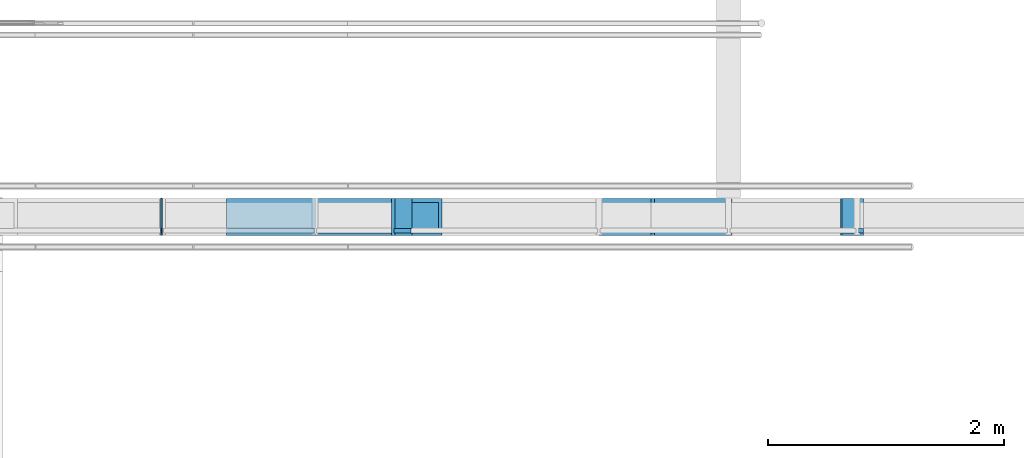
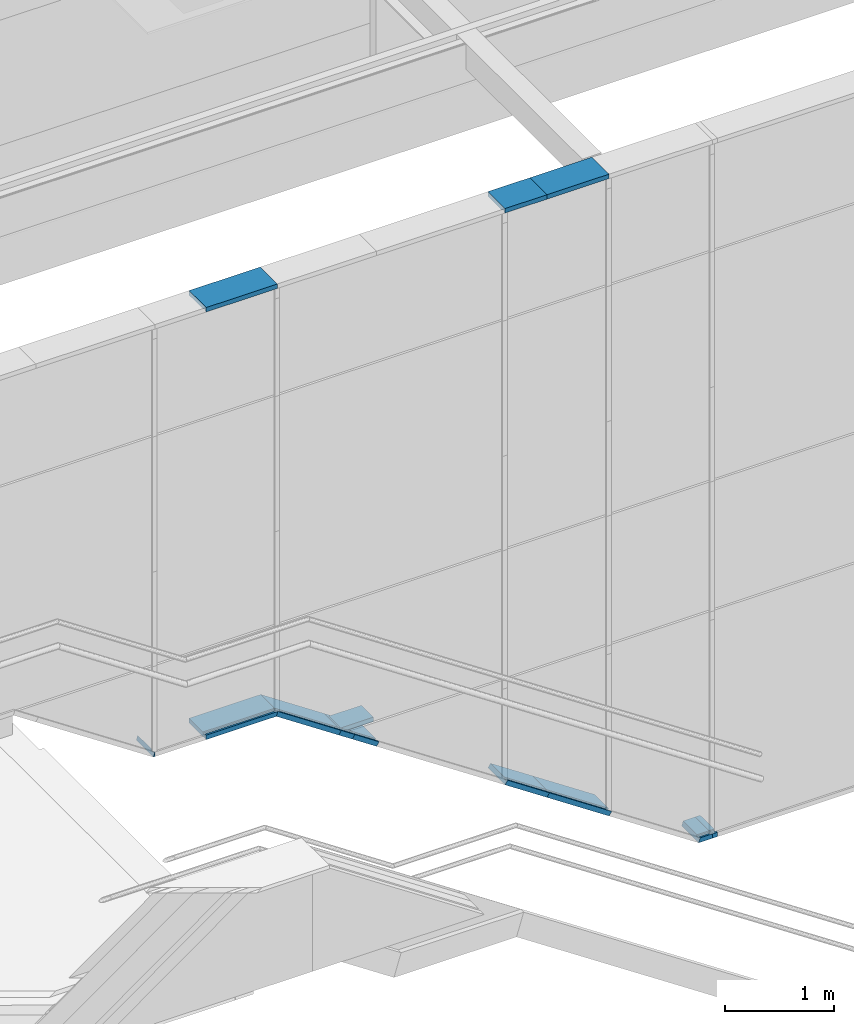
# One storey, part 30 of 137: 13 members, 1 element without a shape of its own.
"""IFC2X3 building model written with IfcOpenShell, lengths in millimetres."""

from ifc_helpers import new_model, entity, si_unit, converted_unit, derived_unit, money_unit, direction, frame, origin_with_axes, place, context, subcontext, project, spatial, faceted_brep, material, type_object, element, aggregate, save


model = new_model("IFC2X3")

# Units and contexts
model_context = context("Model", 3, precision=0.01, world=origin_with_axes(), true_north=direction((0.0, 1.0)))
body_context = subcontext(model_context, "Body", "Model", "MODEL_VIEW")
ifc_project = project(units=[si_unit("LENGTHUNIT", "METRE", prefix="MILLI"), si_unit("AREAUNIT", "SQUARE_METRE"), si_unit("VOLUMEUNIT", "CUBIC_METRE"), converted_unit("PLANEANGLEUNIT", "DEGREE", entity("IfcPlaneAngleMeasure", 0.0174532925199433), si_unit("PLANEANGLEUNIT", "RADIAN"), dimensions=[0, 0, 0, 0, 0, 0, 0]), money_unit("EUR"), converted_unit("TIMEUNIT", "Year", entity("IfcTimeMeasure", 31556926.0), si_unit("TIMEUNIT", "SECOND"), dimensions=[0, 0, 1, 0, 0, 0, 0]), si_unit("MASSUNIT", "GRAM", prefix="KILO"), si_unit("THERMODYNAMICTEMPERATUREUNIT", "DEGREE_CELSIUS"), si_unit("LUMINOUSINTENSITYUNIT", "LUMEN"), si_unit("ENERGYUNIT", "JOULE", prefix="MEGA"), derived_unit("THERMALCONDUCTANCEUNIT", [(si_unit("POWERUNIT", "WATT"), 1), (si_unit("LENGTHUNIT", "METRE"), -1), (si_unit("THERMODYNAMICTEMPERATUREUNIT", "KELVIN"), -1)]), derived_unit("SPECIFICHEATCAPACITYUNIT", [(si_unit("ENERGYUNIT", "JOULE"), 1), (si_unit("MASSUNIT", "GRAM", prefix="KILO"), -1), (si_unit("THERMODYNAMICTEMPERATUREUNIT", "KELVIN"), -1)]), derived_unit("MASSDENSITYUNIT", [(si_unit("MASSUNIT", "GRAM", prefix="KILO"), 1), (si_unit("VOLUMEUNIT", "CUBIC_METRE"), -1)])], contexts=[model_context])

# Site, building, storey
site_placement = place(None, origin_with_axes())
site = spatial("IfcSite", under=ifc_project, at=site_placement, Name="Site", CompositionType="ELEMENT")
building_placement = place(site_placement, origin_with_axes())
building = spatial("IfcBuilding", under=site, at=building_placement, Name="Naam gebouw", CompositionType="ELEMENT")
storey_placement = place(building_placement, frame((0.0, 0.0, 3960.0), z_axis=(0.0, 0.0, 1.0), x_axis=(1.0, 0.0, 0.0)))
storey = spatial("IfcBuildingStorey", under=building, at=storey_placement, Name="1e verdieping", CompositionType="ELEMENT", Elevation=3960.0)

# Curtain wall, members
curtain_wall_type = type_object("IfcCurtainWallType", Name="Curtain Wall Type", PredefinedType="NOTDEFINED")
curtain_wall_placement = place(storey_placement, frame((8473.014787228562, 4364.43626274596, -3949.999921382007), z_axis=(0.0, 0.0, 1.0), x_axis=(1.0, 0.0, 0.0)))
curtain_wall = element("IfcCurtainWall", 1, at=curtain_wall_placement, inside=storey, type_object=curtain_wall_type, Name="21_Vliesgevel-x")
ifc_material = material(Name="Metaal - Staal AFW")
member_type_1 = type_object("IfcMemberType", Name="Boundary Frame 50 x 313", PredefinedType="MULLION")
member_1_placement = place(curtain_wall_placement, frame((6371.410699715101, -161.4362627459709, 2535.000005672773), z_axis=(0.8320502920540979, 0.0, -0.5547001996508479), x_axis=(0.5547001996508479, 0.0, 0.8320502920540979)))
member_1 = element("IfcMember", 2, at=member_1_placement, type_object=member_type_1, material=ifc_material, Name="h METAAL_Kader-x", ObjectType="MULLION", context=body_context, shape_type="Brep", body=[
    faceted_brep([(34.99999999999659, -17.4000000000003, 0.0), (34.99999999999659, 20.99999999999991, 0.0), (34.99999999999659, 20.99999999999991, 171.2641203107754), (34.99999999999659, -17.4000000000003, 171.2641203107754), (14.99999999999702, -17.4000000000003, 0.0), (14.99999999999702, 20.99999999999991, 0.0), (14.99999999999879, 20.99999999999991, 171.2641203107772), (14.99999999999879, -17.4000000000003, 171.2641203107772)], [[[0, 1, 2, 3]], [[0, 4, 5, 1]], [[1, 5, 6, 2]], [[3, 2, 6, 7]], [[4, 0, 3, 7]], [[5, 4, 7, 6]]]),
    faceted_brep([(14.99999999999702, -20.99999999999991, 0.0), (14.99999999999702, 20.99999999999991, 0.0), (14.99999999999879, 20.99999999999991, 171.2641203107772), (14.99999999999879, -20.99999999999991, 171.2641203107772), (0.0, -20.99999999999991, 0.0), (0.0, 20.99999999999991, 0.0), (0.0, 20.99999999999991, 171.2641203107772), (0.0, -20.99999999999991, 171.2641203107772)], [[[0, 1, 2, 3]], [[0, 4, 5, 1]], [[1, 5, 6, 2]], [[3, 2, 6, 7]], [[4, 0, 3, 7]], [[5, 4, 7, 6]]]),
    faceted_brep([(49.99999999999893, -272.0000000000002, 0.0), (49.99999999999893, -17.4000000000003, 0.0), (49.99999999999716, -17.4000000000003, 171.2641203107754), (49.99999999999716, -272.0000000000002, 171.2641203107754), (0.0, -272.0000000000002, 0.0), (0.0, -17.4000000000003, 0.0), (0.0, -17.4000000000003, 171.2641203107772), (0.0, -272.0000000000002, 171.2641203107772)], [[[0, 1, 2, 3]], [[0, 4, 5, 1]], [[1, 5, 6, 2]], [[3, 2, 6, 7]], [[4, 0, 3, 7]], [[5, 4, 7, 6]]]),
    faceted_brep([(0.0, 41.00000000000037, 0.0), (0.0, 20.99999999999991, 0.0), (0.0, 20.99999999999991, 171.2641203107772), (0.0, 41.00000000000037, 171.2641203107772), (49.99999999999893, 41.00000000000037, 0.0), (49.99999999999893, 20.99999999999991, 0.0), (49.99999999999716, 20.99999999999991, 171.2641203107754), (49.99999999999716, 41.00000000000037, 171.2641203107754)], [[[0, 1, 2, 3]], [[0, 4, 5, 1]], [[1, 5, 6, 2]], [[3, 2, 6, 7]], [[4, 0, 3, 7]], [[5, 4, 7, 6]]]),
])
member_2_placement = place(curtain_wall_placement, frame((4969.941645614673, -161.43626274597, 2974.712843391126), z_axis=(1.0, 0.0, 0.0), x_axis=(0.0, 0.0, 1.0)))
member_2 = element("IfcMember", 3, at=member_2_placement, type_object=member_type_1, material=ifc_material, Name="h METAAL_Kader-x", ObjectType="MULLION", context=body_context, shape_type="Brep", body=[
    faceted_brep([(35.00000000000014, -17.4000000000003, 0.0), (35.00000000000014, 20.99999999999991, 0.0), (35.00000000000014, 20.99999999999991, 752.4969508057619), (35.00000000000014, -17.4000000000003, 752.4969508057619), (15.00000000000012, -17.4000000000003, 0.0), (15.00000000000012, 20.99999999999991, 0.0), (15.00000000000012, 20.99999999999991, 746.4414380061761), (15.00000000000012, -17.4000000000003, 746.4414380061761)], [[[0, 1, 2, 3]], [[0, 4, 5, 1]], [[1, 5, 6, 2]], [[3, 2, 6, 7]], [[4, 0, 3, 7]], [[5, 4, 7, 6]]]),
    faceted_brep([(15.00000000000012, -20.99999999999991, 0.0), (15.00000000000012, 20.99999999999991, 0.0), (15.00000000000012, 20.99999999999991, 746.4414380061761), (15.00000000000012, -20.99999999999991, 746.4414380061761), (0.0, -20.99999999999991, 0.0), (0.0, 20.99999999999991, 0.0), (0.0, 20.99999999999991, 741.8998034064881), (0.0, -20.99999999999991, 741.8998034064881)], [[[0, 1, 2, 3]], [[0, 4, 5, 1]], [[1, 5, 6, 2]], [[3, 2, 6, 7]], [[4, 0, 3, 7]], [[5, 4, 7, 6]]]),
    faceted_brep([(0.0, -17.4000000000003, 0.0), (0.0, -272.0000000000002, 0.0), (0.0, -272.0000000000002, 741.8998034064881), (0.0, -17.4000000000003, 741.8998034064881), (49.99999999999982, -17.4000000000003, 0.0), (49.99999999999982, -272.0000000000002, 0.0), (49.99999999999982, -272.0000000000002, 757.03858540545), (49.99999999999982, -17.4000000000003, 757.03858540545)], [[[0, 1, 2, 3]], [[1, 0, 4, 5]], [[2, 1, 5, 6]], [[7, 3, 2, 6]], [[0, 3, 7, 4]], [[5, 4, 7, 6]]]),
    faceted_brep([(0.0, 41.00000000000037, 0.0), (0.0, 20.99999999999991, 0.0), (0.0, 20.99999999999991, 741.8998034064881), (0.0, 41.00000000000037, 741.8998034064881), (49.99999999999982, 41.00000000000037, 0.0), (49.99999999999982, 20.99999999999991, 0.0), (49.99999999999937, 20.99999999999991, 757.03858540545), (49.99999999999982, 41.00000000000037, 757.03858540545)], [[[0, 1, 2, 3]], [[1, 0, 4, 5]], [[2, 1, 5, 6]], [[3, 2, 6, 7]], [[0, 3, 7, 4]], [[5, 4, 7, 6]]]),
])
member_3_placement = place(curtain_wall_placement, frame((10316.98035005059, -161.4362627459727, 3.861439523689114e-05), z_axis=(1.0, 0.0, 0.0), x_axis=(0.0, 0.0, 1.0)))
member_3 = element("IfcMember", 4, at=member_3_placement, type_object=member_type_1, material=ifc_material, Name="h METAAL_Kader-x", ObjectType="MULLION", context=body_context, shape_type="Brep", body=[
    faceted_brep([(35.0, -17.4000000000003, 0.0), (35.0, 20.99999999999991, 0.0), (35.0, 20.99999999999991, 52.96129556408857), (35.0, -17.4000000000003, 52.96129556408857), (15.0, -17.4000000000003, 0.0), (15.0, 20.99999999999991, 0.0), (15.0, 20.99999999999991, 52.96129556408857), (15.0, -17.4000000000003, 52.96129556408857)], [[[0, 1, 2, 3]], [[0, 4, 5, 1]], [[1, 5, 6, 2]], [[3, 2, 6, 7]], [[4, 0, 3, 7]], [[5, 4, 7, 6]]]),
    faceted_brep([(15.0, -20.99999999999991, 0.0), (15.0, 20.99999999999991, 0.0), (15.0, 20.99999999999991, 52.96129556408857), (15.0, -20.99999999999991, 52.96129556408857), (0.0, -20.99999999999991, 0.0), (0.0, 20.99999999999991, 0.0), (0.0, 20.99999999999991, 52.96129556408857), (0.0, -20.99999999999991, 52.96129556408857)], [[[0, 1, 2, 3]], [[0, 4, 5, 1]], [[1, 5, 6, 2]], [[3, 2, 6, 7]], [[4, 0, 3, 7]], [[5, 4, 7, 6]]]),
    faceted_brep([(49.99999999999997, -272.0000000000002, 0.0), (50.0, -17.4000000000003, 0.0), (50.0, -17.4000000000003, 52.96129556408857), (49.99999999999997, -272.0000000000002, 52.96129556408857), (0.0, -272.0000000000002, 0.0), (0.0, -17.4000000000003, 0.0), (0.0, -17.4000000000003, 52.96129556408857), (0.0, -272.0000000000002, 52.96129556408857)], [[[0, 1, 2, 3]], [[0, 4, 5, 1]], [[1, 5, 6, 2]], [[3, 2, 6, 7]], [[4, 0, 3, 7]], [[5, 4, 7, 6]]]),
    faceted_brep([(0.0, 41.00000000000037, 0.0), (0.0, 20.99999999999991, 0.0), (0.0, 20.99999999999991, 52.96129556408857), (0.0, 41.00000000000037, 52.96129556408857), (50.00000000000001, 41.00000000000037, 0.0), (50.0, 20.99999999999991, 0.0), (50.0, 20.99999999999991, 52.96129556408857), (50.00000000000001, 41.00000000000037, 52.96129556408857)], [[[0, 1, 2, 3]], [[0, 4, 5, 1]], [[1, 5, 6, 2]], [[3, 2, 6, 7]], [[4, 0, 3, 7]], [[5, 4, 7, 6]]]),
])
member_4_placement = place(curtain_wall_placement, frame((8126.979732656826, -161.4362627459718, 1364.620556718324), z_axis=(0.8320502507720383, 0.0, -0.5547002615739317), x_axis=(0.5547002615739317, 0.0, 0.8320502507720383)))
member_4 = element("IfcMember", 5, at=member_4_placement, type_object=member_type_1, material=ifc_material, Name="h METAAL_Kader-x", ObjectType="MULLION", context=body_context, shape_type="Brep", body=[
    faceted_brep([(35.00000000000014, -17.4000000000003, 0.0), (35.00000000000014, 20.99999999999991, 0.0), (34.99999999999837, 20.99999999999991, 532.3739939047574), (34.99999999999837, -17.4000000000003, 532.3739939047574), (15.00000000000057, -17.4000000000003, 0.0), (15.00000000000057, 20.99999999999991, 0.0), (15.00000000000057, 20.99999999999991, 532.3739939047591), (15.00000000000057, -17.4000000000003, 532.3739939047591)], [[[0, 1, 2, 3]], [[0, 4, 5, 1]], [[1, 5, 6, 2]], [[3, 2, 6, 7]], [[4, 0, 3, 7]], [[5, 4, 7, 6]]]),
    faceted_brep([(15.00000000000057, -20.99999999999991, 0.0), (15.00000000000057, 20.99999999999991, 0.0), (15.00000000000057, 20.99999999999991, 532.3739939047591), (15.00000000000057, -20.99999999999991, 532.3739939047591), (0.0, -20.99999999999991, 0.0), (0.0, 20.99999999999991, 0.0), (0.0, 20.99999999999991, 532.3739939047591), (0.0, -20.99999999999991, 532.3739939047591)], [[[0, 1, 2, 3]], [[0, 4, 5, 1]], [[1, 5, 6, 2]], [[3, 2, 6, 7]], [[4, 0, 3, 7]], [[5, 4, 7, 6]]]),
    faceted_brep([(50.00000000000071, -272.0000000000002, 0.0), (50.00000000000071, -17.4000000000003, 0.0), (49.99999999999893, -17.4000000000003, 532.3739939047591), (49.99999999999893, -272.0000000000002, 532.3739939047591), (0.0, -272.0000000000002, 0.0), (0.0, -17.4000000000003, 0.0), (0.0, -17.4000000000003, 532.3739939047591), (0.0, -272.0000000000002, 532.3739939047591)], [[[0, 1, 2, 3]], [[0, 4, 5, 1]], [[1, 5, 6, 2]], [[3, 2, 6, 7]], [[4, 0, 3, 7]], [[5, 4, 7, 6]]]),
    faceted_brep([(0.0, 41.00000000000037, 0.0), (0.0, 20.99999999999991, 0.0), (0.0, 20.99999999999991, 532.3739939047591), (0.0, 41.00000000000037, 532.3739939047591), (50.00000000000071, 41.00000000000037, 0.0), (50.00000000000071, 20.99999999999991, 0.0), (49.99999999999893, 20.99999999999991, 532.3739939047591), (49.99999999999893, 41.00000000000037, 532.3739939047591)], [[[0, 1, 2, 3]], [[0, 4, 5, 1]], [[1, 5, 6, 2]], [[3, 2, 6, 7]], [[4, 0, 3, 7]], [[5, 4, 7, 6]]]),
])
member_5_placement = place(curtain_wall_placement, frame((6513.911057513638, -161.4362627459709, 2439.99976629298), z_axis=(0.8320503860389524, 0.0, -0.5547000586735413), x_axis=(0.5547000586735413, 0.0, 0.8320503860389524)))
member_5 = element("IfcMember", 6, at=member_5_placement, type_object=member_type_1, material=ifc_material, Name="h METAAL_Kader-x", ObjectType="MULLION", context=body_context, shape_type="Brep", body=[
    faceted_brep([(35.00000000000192, -17.4000000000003, -4.235840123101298e-06), (35.00000000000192, 20.99999999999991, -4.235840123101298e-06), (35.00000000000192, 20.99999999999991, 307.7104433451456), (35.00000000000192, -17.4000000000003, 307.7104433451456), (15.00000000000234, -17.4000000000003, -4.235838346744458e-06), (15.00000000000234, 20.99999999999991, -4.235838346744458e-06), (15.00000000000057, 20.99999999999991, 307.7104433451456), (15.00000000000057, -17.4000000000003, 307.7104433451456)], [[[0, 1, 2, 3]], [[0, 4, 5, 1]], [[1, 5, 6, 2]], [[3, 2, 6, 7]], [[4, 0, 3, 7]], [[5, 4, 7, 6]]]),
    faceted_brep([(15.00000000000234, -20.99999999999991, -4.235838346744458e-06), (15.00000000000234, 20.99999999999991, -4.235838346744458e-06), (15.00000000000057, 20.99999999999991, 307.7104433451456), (15.00000000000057, -20.99999999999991, 307.7104433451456), (0.0, -20.99999999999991, -4.235838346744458e-06), (0.0, 20.99999999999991, -4.235838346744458e-06), (0.0, 20.99999999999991, 307.7104433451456), (0.0, -20.99999999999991, 307.7104433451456)], [[[0, 1, 2, 3]], [[0, 4, 5, 1]], [[1, 5, 6, 2]], [[3, 2, 6, 7]], [[4, 0, 3, 7]], [[5, 4, 7, 6]]]),
    faceted_brep([(50.00000000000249, -272.0000000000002, -4.235840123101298e-06), (50.00000000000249, -17.4000000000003, -4.235840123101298e-06), (50.00000000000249, -17.4000000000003, 307.7104433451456), (50.00000000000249, -272.0000000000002, 307.7104433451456), (0.0, -272.0000000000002, -4.235838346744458e-06), (0.0, -17.4000000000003, -4.235838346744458e-06), (0.0, -17.4000000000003, 307.7104433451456), (0.0, -272.0000000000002, 307.7104433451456)], [[[0, 1, 2, 3]], [[0, 4, 5, 1]], [[1, 5, 6, 2]], [[3, 2, 6, 7]], [[4, 0, 3, 7]], [[5, 4, 7, 6]]]),
    faceted_brep([(0.0, 41.00000000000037, -4.235838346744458e-06), (0.0, 20.99999999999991, -4.235838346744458e-06), (0.0, 20.99999999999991, 307.7104433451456), (0.0, 41.00000000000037, 307.7104433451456), (50.00000000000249, 41.00000000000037, -4.235840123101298e-06), (50.00000000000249, 20.99999999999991, -4.235840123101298e-06), (50.00000000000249, 20.99999999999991, 307.7104433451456), (50.00000000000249, 41.00000000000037, 307.7104433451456)], [[[0, 1, 2, 3]], [[0, 4, 5, 1]], [[1, 5, 6, 2]], [[3, 2, 6, 7]], [[4, 0, 3, 7]], [[5, 4, 7, 6]]]),
])
member_6_placement = place(curtain_wall_placement, frame((5711.841449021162, -161.43626274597, 2974.712843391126), z_axis=(0.8320502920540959, 0.0, -0.5547001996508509), x_axis=(0.5547001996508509, 0.0, 0.8320502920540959)))
member_6 = element("IfcMember", 7, at=member_6_placement, type_object=member_type_1, material=ifc_material, Name="h METAAL_Kader-x", ObjectType="MULLION", context=body_context, shape_type="Brep", body=[
    faceted_brep([(35.00000000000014, 20.99999999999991, -10.59714739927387), (35.00000000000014, 20.99999999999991, 792.7035865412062), (35.00000000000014, -17.4000000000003, 792.7035865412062), (35.00000000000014, -17.4000000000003, -10.59714739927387), (15.00000000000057, 20.99999999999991, -4.541634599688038), (15.00000000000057, 20.99999999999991, 792.7035865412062), (15.00000000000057, -17.4000000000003, 792.7035865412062), (15.00000000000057, -17.4000000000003, -4.541634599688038)], [[[0, 1, 2, 3]], [[4, 5, 1, 0]], [[2, 1, 5, 6]], [[3, 2, 6, 7]], [[3, 7, 4, 0]], [[7, 6, 5, 4]]]),
    faceted_brep([(15.00000000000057, 20.99999999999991, -4.541634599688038), (15.00000000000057, 20.99999999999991, 792.7035865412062), (15.00000000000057, -20.99999999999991, 792.7035865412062), (15.00000000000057, -20.99999999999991, -4.541634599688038), (0.0, 20.99999999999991, 0.0), (0.0, 20.99999999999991, 792.7035865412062), (0.0, -20.99999999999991, 792.7035865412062), (0.0, -20.99999999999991, 0.0)], [[[0, 1, 2, 3]], [[4, 5, 1, 0]], [[2, 1, 5, 6]], [[3, 2, 6, 7]], [[3, 7, 4, 0]], [[7, 6, 5, 4]]]),
    faceted_brep([(0.0, -272.0000000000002, 792.7035865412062), (0.0, -17.4000000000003, 792.7035865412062), (0.0, -17.4000000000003, 0.0), (0.0, -272.0000000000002, 0.0), (49.99999999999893, -272.0000000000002, 792.7035865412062), (49.99999999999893, -17.4000000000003, 792.7035865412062), (50.00000000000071, -17.4000000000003, -15.13878199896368), (50.00000000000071, -272.0000000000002, -15.1387819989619)], [[[0, 1, 2, 3]], [[1, 0, 4, 5]], [[2, 1, 5, 6]], [[2, 6, 7, 3]], [[0, 3, 7, 4]], [[7, 6, 5, 4]]]),
    faceted_brep([(0.0, 20.99999999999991, 792.7035865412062), (0.0, 20.99999999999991, 0.0), (50.00000000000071, 20.99999999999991, -15.13878199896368), (49.99999999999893, 20.99999999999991, 792.7035865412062), (0.0, 41.00000000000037, 792.7035865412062), (0.0, 41.00000000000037, 0.0), (50.00000000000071, 41.00000000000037, -15.13878199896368), (49.99999999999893, 41.00000000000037, 792.7035865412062)], [[[0, 1, 2, 3]], [[0, 4, 5, 1]], [[1, 5, 6, 2]], [[2, 6, 7, 3]], [[4, 0, 3, 7]], [[5, 4, 7, 6]]]),
])
member_7_placement = place(curtain_wall_placement, frame((4411.841928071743, -161.43626274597, 2974.712843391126), z_axis=(1.0, 0.0, 0.0), x_axis=(0.0, 0.0, 1.0)))
member_7 = element("IfcMember", 8, at=member_7_placement, type_object=member_type_1, material=ifc_material, Name="h METAAL_Kader-x", ObjectType="MULLION", context=body_context, shape_type="Brep", body=[
    faceted_brep([(35.00000000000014, 20.99999999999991, 10.5971438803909), (35.00000000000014, 20.99999999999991, 15.13845554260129), (35.00000000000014, -17.4000000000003, 15.13845554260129), (35.00000000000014, -17.4000000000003, 10.5971438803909), (15.00000000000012, 20.99999999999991, 4.541633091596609), (15.00000000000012, 20.99999999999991, 15.13845554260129), (15.00000000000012, -17.4000000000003, 15.13845554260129), (15.00000000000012, -17.4000000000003, 4.541633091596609)], [[[0, 1, 2, 3]], [[4, 5, 1, 0]], [[2, 1, 5, 6]], [[3, 2, 6, 7]], [[3, 7, 4, 0]], [[7, 6, 5, 4]]]),
    faceted_brep([(15.00000000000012, 20.99999999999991, 4.541633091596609), (15.00000000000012, 20.99999999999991, 15.13845554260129), (15.00000000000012, -20.99999999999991, 15.13845554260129), (15.00000000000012, -20.99999999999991, 4.541633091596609), (0.0, 20.99999999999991, 0.0), (0.0, 20.99999999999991, 15.13845554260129), (0.0, -20.99999999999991, 15.13845554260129), (0.0, -20.99999999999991, 0.0)], [[[0, 1, 2, 3]], [[4, 5, 1, 0]], [[2, 1, 5, 6]], [[3, 2, 6, 7]], [[3, 7, 4, 0]], [[7, 6, 5, 4]]]),
    faceted_brep([(0.0, -272.0000000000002, 0.0), (0.0, -17.4000000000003, 0.0), (49.99999999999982, -17.4000000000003, 15.13845554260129), (49.99999999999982, -272.0000000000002, 15.13845554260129), (0.0, -272.0000000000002, 15.13845554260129), (0.0, -17.4000000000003, 15.13845554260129)], [[[0, 1, 2, 3]], [[4, 5, 1, 0]], [[1, 5, 2]], [[5, 4, 3, 2]], [[3, 4, 0]]]),
    faceted_brep([(0.0, 20.99999999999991, 0.0), (0.0, 41.00000000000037, 0.0), (49.99999999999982, 41.00000000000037, 15.13845554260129), (49.99999999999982, 20.99999999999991, 15.13845554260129), (0.0, 20.99999999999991, 15.13845554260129), (0.0, 41.00000000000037, 15.13845554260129)], [[[0, 1, 2, 3]], [[4, 5, 1, 0]], [[1, 5, 2]], [[5, 4, 3, 2]], [[3, 4, 0]]]),
])
member_8_placement = place(curtain_wall_placement, frame((8569.941645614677, -161.4362627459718, 1069.312564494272), z_axis=(0.8320503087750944, 0.0, -0.5547001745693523), x_axis=(0.5547001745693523, 0.0, 0.8320503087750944)))
member_8 = element("IfcMember", 9, at=member_8_placement, type_object=member_type_1, material=ifc_material, Name="h METAAL_Kader-x", ObjectType="MULLION", context=body_context, shape_type="Brep", body=[
    faceted_brep([(34.99999999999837, -17.4000000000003, -2.614163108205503e-06), (34.99999999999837, 20.99999999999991, -2.614163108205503e-06), (35.00000000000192, 20.99999999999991, 789.6614773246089), (35.00000000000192, -17.4000000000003, 789.6614773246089), (15.00000000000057, -17.4000000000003, -2.614163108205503e-06), (15.00000000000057, 20.99999999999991, -2.614163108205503e-06), (15.00000000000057, 20.99999999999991, 789.6614773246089), (15.00000000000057, -17.4000000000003, 789.6614773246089)], [[[0, 1, 2, 3]], [[0, 4, 5, 1]], [[1, 5, 6, 2]], [[3, 2, 6, 7]], [[4, 0, 3, 7]], [[5, 4, 7, 6]]]),
    faceted_brep([(15.00000000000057, -20.99999999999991, -2.614163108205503e-06), (15.00000000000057, 20.99999999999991, -2.614163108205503e-06), (15.00000000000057, 20.99999999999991, 789.6614773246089), (15.00000000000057, -20.99999999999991, 789.6614773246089), (0.0, -20.99999999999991, -2.614161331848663e-06), (0.0, 20.99999999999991, -2.614161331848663e-06), (0.0, 20.99999999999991, 789.6614773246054), (0.0, -20.99999999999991, 789.6614773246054)], [[[0, 1, 2, 3]], [[0, 4, 5, 1]], [[1, 5, 6, 2]], [[3, 2, 6, 7]], [[4, 0, 3, 7]], [[5, 4, 7, 6]]]),
    faceted_brep([(50.00000000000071, -272.0000000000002, -2.614161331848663e-06), (50.00000000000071, -17.4000000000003, -2.614161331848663e-06), (49.99999999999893, -17.4000000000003, 789.6614773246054), (49.99999999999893, -272.0000000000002, 789.6614773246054), (0.0, -272.0000000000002, -2.614161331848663e-06), (0.0, -17.4000000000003, -2.614161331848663e-06), (0.0, -17.4000000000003, 789.6614773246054), (0.0, -272.0000000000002, 789.6614773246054)], [[[0, 1, 2, 3]], [[0, 4, 5, 1]], [[1, 5, 6, 2]], [[3, 2, 6, 7]], [[4, 0, 3, 7]], [[5, 4, 7, 6]]]),
    faceted_brep([(0.0, 41.00000000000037, -2.614161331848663e-06), (0.0, 20.99999999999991, -2.614161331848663e-06), (0.0, 20.99999999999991, 789.6614773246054), (0.0, 41.00000000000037, 789.6614773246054), (50.00000000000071, 41.00000000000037, -2.614161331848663e-06), (50.00000000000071, 20.99999999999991, -2.614161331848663e-06), (49.99999999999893, 20.99999999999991, 789.6614773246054), (49.99999999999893, 41.00000000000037, 789.6614773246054)], [[[0, 1, 2, 3]], [[0, 4, 5, 1]], [[1, 5, 6, 2]], [[3, 2, 6, 7]], [[4, 0, 3, 7]], [[5, 4, 7, 6]]]),
])
member_9_placement = place(curtain_wall_placement, frame((10173.91052488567, -161.4362627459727, 3.861439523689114e-05), z_axis=(1.0, 0.0, 0.0), x_axis=(0.0, 0.0, 1.0)))
member_9 = element("IfcMember", 10, at=member_9_placement, type_object=member_type_1, material=ifc_material, Name="h METAAL_Kader-x", ObjectType="MULLION", context=body_context, shape_type="Brep", body=[
    faceted_brep([(35.0, 20.99999999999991, 10.59714682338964), (35.0, 20.99999999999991, 143.0698251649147), (35.0, -17.4000000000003, 143.0698251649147), (35.0, -17.4000000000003, 10.59714682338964), (15.0, 20.99999999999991, 4.541634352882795), (15.0, 20.99999999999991, 143.0698251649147), (15.0, -17.4000000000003, 143.0698251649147), (15.0, -17.4000000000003, 4.541634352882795)], [[[0, 1, 2, 3]], [[4, 5, 1, 0]], [[2, 1, 5, 6]], [[3, 2, 6, 7]], [[3, 7, 4, 0]], [[7, 6, 5, 4]]]),
    faceted_brep([(15.0, 20.99999999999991, 4.541634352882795), (15.0, 20.99999999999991, 143.0698251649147), (15.0, -20.99999999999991, 143.0698251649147), (15.0, -20.99999999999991, 4.541634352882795), (0.0, 20.99999999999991, 0.0), (0.0, 20.99999999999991, 143.0698251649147), (0.0, -20.99999999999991, 143.0698251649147), (0.0, -20.99999999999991, 0.0)], [[[0, 1, 2, 3]], [[4, 5, 1, 0]], [[2, 1, 5, 6]], [[3, 2, 6, 7]], [[3, 7, 4, 0]], [[7, 6, 5, 4]]]),
    faceted_brep([(50.0, -17.4000000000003, 15.13878117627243), (50.0, -17.4000000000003, 143.0698251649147), (49.99999999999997, -272.0000000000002, 143.0698251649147), (49.99999999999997, -272.0000000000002, 15.13878117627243), (0.0, -17.4000000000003, 0.0), (0.0, -17.4000000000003, 143.0698251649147), (0.0, -272.0000000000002, 143.0698251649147), (0.0, -272.0000000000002, 0.0)], [[[0, 1, 2, 3]], [[4, 5, 1, 0]], [[2, 1, 5, 6]], [[3, 2, 6, 7]], [[3, 7, 4, 0]], [[7, 6, 5, 4]]]),
    faceted_brep([(0.0, 20.99999999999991, 0.0), (0.0, 20.99999999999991, 143.0698251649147), (0.0, 41.00000000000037, 143.0698251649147), (0.0, 41.00000000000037, 0.0), (50.0, 20.99999999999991, 15.13878117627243), (50.0, 20.99999999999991, 143.0698251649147), (50.00000000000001, 41.00000000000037, 143.0698251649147), (50.00000000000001, 41.00000000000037, 15.13878117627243)], [[[0, 1, 2, 3]], [[4, 5, 1, 0]], [[2, 1, 5, 6]], [[3, 2, 6, 7]], [[3, 7, 4, 0]], [[7, 6, 5, 4]]]),
])
member_10_placement = place(curtain_wall_placement, frame((8126.979701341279, -161.4362627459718, 7800.000020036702), z_axis=(1.0, 0.0, 0.0), x_axis=(0.0, 0.0, 1.0)))
member_10 = element("IfcMember", 11, at=member_10_placement, type_object=member_type_1, material=ifc_material, Name="h METAAL_Kader-x", ObjectType="MULLION", context=body_context, shape_type="Brep", body=[
    faceted_brep([(-35.00000000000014, -17.4000000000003, 0.0), (-35.00000000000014, -17.4000000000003, 442.9619442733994), (-35.00000000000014, 20.99999999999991, 442.9619442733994), (-35.00000000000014, 20.99999999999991, 0.0), (-14.99999999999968, -17.4000000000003, 0.0), (-14.99999999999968, -17.4000000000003, 442.9619442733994), (-14.99999999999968, 20.99999999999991, 442.9619442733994), (-14.99999999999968, 20.99999999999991, 0.0)], [[[0, 1, 2, 3]], [[4, 5, 1, 0]], [[1, 5, 6, 2]], [[3, 2, 6, 7]], [[0, 3, 7, 4]], [[7, 6, 5, 4]]]),
    faceted_brep([(-14.99999999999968, -20.99999999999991, 0.0), (-14.99999999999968, -20.99999999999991, 442.9619442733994), (-14.99999999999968, 20.99999999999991, 442.9619442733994), (-14.99999999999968, 20.99999999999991, 0.0), (0.0, -20.99999999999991, 0.0), (0.0, -20.99999999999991, 442.9619442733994), (0.0, 20.99999999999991, 442.9619442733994), (0.0, 20.99999999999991, 0.0)], [[[0, 1, 2, 3]], [[4, 5, 1, 0]], [[1, 5, 6, 2]], [[3, 2, 6, 7]], [[0, 3, 7, 4]], [[7, 6, 5, 4]]]),
    faceted_brep([(-49.99999999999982, -272.0000000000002, 0.0), (-49.99999999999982, -272.0000000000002, 442.9619442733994), (-49.99999999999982, -17.4000000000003, 442.9619442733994), (-49.99999999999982, -17.4000000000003, 0.0), (0.0, -272.0000000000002, 0.0), (0.0, -272.0000000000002, 442.9619442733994), (0.0, -17.4000000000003, 442.9619442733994), (0.0, -17.4000000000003, 0.0)], [[[0, 1, 2, 3]], [[4, 5, 1, 0]], [[1, 5, 6, 2]], [[3, 2, 6, 7]], [[0, 3, 7, 4]], [[7, 6, 5, 4]]]),
    faceted_brep([(0.0, 41.00000000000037, 0.0), (0.0, 41.00000000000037, 442.9619442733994), (0.0, 20.99999999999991, 442.9619442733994), (0.0, 20.99999999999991, 0.0), (-49.99999999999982, 41.00000000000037, 0.0), (-49.99999999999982, 41.00000000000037, 442.9619442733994), (-49.99999999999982, 20.99999999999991, 442.9619442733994), (-49.99999999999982, 20.99999999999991, 0.0)], [[[0, 1, 2, 3]], [[4, 5, 1, 0]], [[1, 5, 6, 2]], [[3, 2, 6, 7]], [[0, 3, 7, 4]], [[7, 6, 5, 4]]]),
])
member_11_placement = place(curtain_wall_placement, frame((4969.941645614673, -161.43626274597, 7800.000020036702), z_axis=(1.0, 0.0, 0.0), x_axis=(0.0, 0.0, 1.0)))
member_11 = element("IfcMember", 12, at=member_11_placement, type_object=member_type_1, material=ifc_material, Name="h METAAL_Kader-x", ObjectType="MULLION", context=body_context, shape_type="Brep", body=[
    faceted_brep([(-35.00000000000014, -17.4000000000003, 0.0), (-35.00000000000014, -17.4000000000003, 752.0387330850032), (-35.00000000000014, 20.99999999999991, 752.0387330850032), (-35.00000000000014, 20.99999999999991, 0.0), (-14.99999999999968, -17.4000000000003, 0.0), (-14.99999999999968, -17.4000000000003, 752.0387330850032), (-14.99999999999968, 20.99999999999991, 752.0387330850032), (-14.99999999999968, 20.99999999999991, 0.0)], [[[0, 1, 2, 3]], [[4, 5, 1, 0]], [[1, 5, 6, 2]], [[3, 2, 6, 7]], [[0, 3, 7, 4]], [[7, 6, 5, 4]]]),
    faceted_brep([(-14.99999999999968, -20.99999999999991, 0.0), (-14.99999999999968, -20.99999999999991, 752.0387330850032), (-14.99999999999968, 20.99999999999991, 752.0387330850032), (-14.99999999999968, 20.99999999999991, 0.0), (0.0, -20.99999999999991, 0.0), (0.0, -20.99999999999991, 752.0387330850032), (0.0, 20.99999999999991, 752.0387330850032), (0.0, 20.99999999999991, 0.0)], [[[0, 1, 2, 3]], [[4, 5, 1, 0]], [[1, 5, 6, 2]], [[3, 2, 6, 7]], [[0, 3, 7, 4]], [[7, 6, 5, 4]]]),
    faceted_brep([(-49.99999999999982, -272.0000000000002, 0.0), (-49.99999999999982, -272.0000000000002, 752.0387330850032), (-49.99999999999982, -17.4000000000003, 752.0387330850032), (-49.99999999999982, -17.4000000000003, 0.0), (0.0, -272.0000000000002, 0.0), (0.0, -272.0000000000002, 752.0387330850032), (0.0, -17.4000000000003, 752.0387330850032), (0.0, -17.4000000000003, 0.0)], [[[0, 1, 2, 3]], [[4, 5, 1, 0]], [[1, 5, 6, 2]], [[3, 2, 6, 7]], [[0, 3, 7, 4]], [[7, 6, 5, 4]]]),
    faceted_brep([(0.0, 41.00000000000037, 0.0), (0.0, 41.00000000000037, 752.0387330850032), (0.0, 20.99999999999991, 752.0387330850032), (0.0, 20.99999999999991, 0.0), (-49.99999999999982, 41.00000000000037, 0.0), (-49.99999999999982, 41.00000000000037, 752.0387330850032), (-49.99999999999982, 20.99999999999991, 752.0387330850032), (-49.99999999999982, 20.99999999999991, 0.0)], [[[0, 1, 2, 3]], [[4, 5, 1, 0]], [[1, 5, 6, 2]], [[3, 2, 6, 7]], [[0, 3, 7, 4]], [[7, 6, 5, 4]]]),
])
member_12_placement = place(curtain_wall_placement, frame((8569.941645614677, -161.4362627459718, 7800.000020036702), z_axis=(1.0, 0.0, 0.0), x_axis=(0.0, 0.0, 1.0)))
member_12 = element("IfcMember", 13, at=member_12_placement, type_object=member_type_1, material=ifc_material, Name="h METAAL_Kader-x", ObjectType="MULLION", context=body_context, shape_type="Brep", body=[
    faceted_brep([(-35.00000000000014, -17.4000000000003, 0.0), (-35.00000000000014, -17.4000000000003, 657.0380768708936), (-35.00000000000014, 20.99999999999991, 657.0380768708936), (-35.00000000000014, 20.99999999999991, 0.0), (-14.99999999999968, -17.4000000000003, 0.0), (-14.99999999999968, -17.4000000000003, 657.0380768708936), (-14.99999999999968, 20.99999999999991, 657.0380768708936), (-14.99999999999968, 20.99999999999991, 0.0)], [[[0, 1, 2, 3]], [[4, 5, 1, 0]], [[1, 5, 6, 2]], [[3, 2, 6, 7]], [[0, 3, 7, 4]], [[7, 6, 5, 4]]]),
    faceted_brep([(-14.99999999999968, -20.99999999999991, 0.0), (-14.99999999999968, -20.99999999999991, 657.0380768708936), (-14.99999999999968, 20.99999999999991, 657.0380768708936), (-14.99999999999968, 20.99999999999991, 0.0), (0.0, -20.99999999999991, 0.0), (0.0, -20.99999999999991, 657.0380768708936), (0.0, 20.99999999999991, 657.0380768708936), (0.0, 20.99999999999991, 0.0)], [[[0, 1, 2, 3]], [[4, 5, 1, 0]], [[1, 5, 6, 2]], [[3, 2, 6, 7]], [[0, 3, 7, 4]], [[7, 6, 5, 4]]]),
    faceted_brep([(-49.99999999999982, -272.0000000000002, 0.0), (-49.99999999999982, -272.0000000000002, 657.0380768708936), (-49.99999999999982, -17.4000000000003, 657.0380768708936), (-49.99999999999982, -17.4000000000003, 0.0), (0.0, -272.0000000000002, 0.0), (0.0, -272.0000000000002, 657.0380768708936), (0.0, -17.4000000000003, 657.0380768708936), (0.0, -17.4000000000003, 0.0)], [[[0, 1, 2, 3]], [[4, 5, 1, 0]], [[1, 5, 6, 2]], [[3, 2, 6, 7]], [[0, 3, 7, 4]], [[7, 6, 5, 4]]]),
    faceted_brep([(0.0, 41.00000000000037, 0.0), (0.0, 41.00000000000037, 657.0380768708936), (0.0, 20.99999999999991, 657.0380768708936), (0.0, 20.99999999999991, 0.0), (-49.99999999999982, 41.00000000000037, 0.0), (-49.99999999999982, 41.00000000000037, 657.0380768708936), (-49.99999999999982, 20.99999999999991, 657.0380768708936), (-49.99999999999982, 20.99999999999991, 0.0)], [[[0, 1, 2, 3]], [[4, 5, 1, 0]], [[1, 5, 6, 2]], [[3, 2, 6, 7]], [[0, 3, 7, 4]], [[7, 6, 5, 4]]]),
])
member_type_2 = type_object("IfcMemberType", Name="Transom Frame 50 x 258", PredefinedType="MULLION")
member_13_placement = place(curtain_wall_placement, frame((6371.410699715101, -161.4362627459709, 2535.000005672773), z_axis=(0.9999999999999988, 0.0, 4.993504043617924e-08), x_axis=(-4.993504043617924e-08, 0.0, 0.9999999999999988)))
member_13 = element("IfcMember", 14, at=member_13_placement, type_object=member_type_2, material=ifc_material, Name="h METAAL_Kader-x", ObjectType="MULLION", context=body_context, shape_type="Brep", body=[
    faceted_brep([(24.99999737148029, -17.4000000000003, 52.63878021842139), (24.99998009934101, -17.4000000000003, 398.530948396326), (24.99998009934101, -237.0000000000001, 398.530948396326), (24.99999737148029, -237.0000000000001, 52.63878021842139), (-25.0000063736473, -17.4000000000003, 127.6387689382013), (-25.00001990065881, -17.4000000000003, 398.5309458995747), (-25.00001990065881, -237.0000000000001, 398.5309458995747), (-25.0000063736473, -237.0000000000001, 127.6387689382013)], [[[0, 1, 2, 3]], [[4, 5, 1, 0]], [[2, 1, 5, 6]], [[3, 2, 6, 7]], [[3, 7, 4, 0]], [[7, 6, 5, 4]]]),
])
aggregate(curtain_wall, [member_1, member_2, member_3, member_4, member_5, member_13, member_6, member_7, member_8, member_9, member_10, member_11, member_12])

save(model, "model.ifc")
